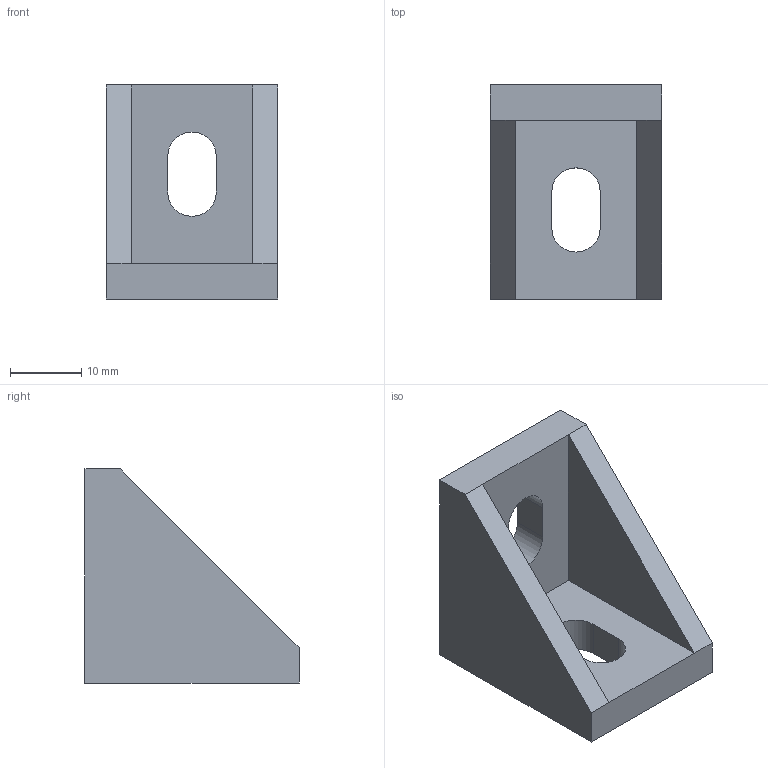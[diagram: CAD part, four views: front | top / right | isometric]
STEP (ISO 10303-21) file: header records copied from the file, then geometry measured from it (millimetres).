
FILE_DESCRIPTION(/* description */ ('Unknown'),/* implementation_level */ '2;1');
FILE_NAME(/* name */ 'DL2430K',/* time_stamp */ '2026-09-17T15:15:45+08:00',/* author */ ('Unknown'),/* organization */ ('Unknown'),/* preprocessor_version */ 'ST-DEVELOPER v16.7',/* originating_system */ 'DEX',/* authorisation */ $);
FILE_SCHEMA (('AUTOMOTIVE_DESIGN {1 0 10303 214 3 1 1}'));
Length unit declared in the file: millimetre
Products named in the file (1): DL2430
Bounding box: 24 x 30 x 30 mm (x, y, z)
Volume: 8084.3 mm3; surface area: 4609.8 mm2
Topology: 1 solids, 1 shells, 20 faces, 50 edges, 32 vertices
Faces by surface type: plane 16, cylinder 4
Entity records: 628 total; most frequent: CARTESIAN_POINT 103, ORIENTED_EDGE 100, DIRECTION 100, EDGE_CURVE 50, LINE 42, VECTOR 42, VERTEX_POINT 32, AXIS2_PLACEMENT_3D 29
